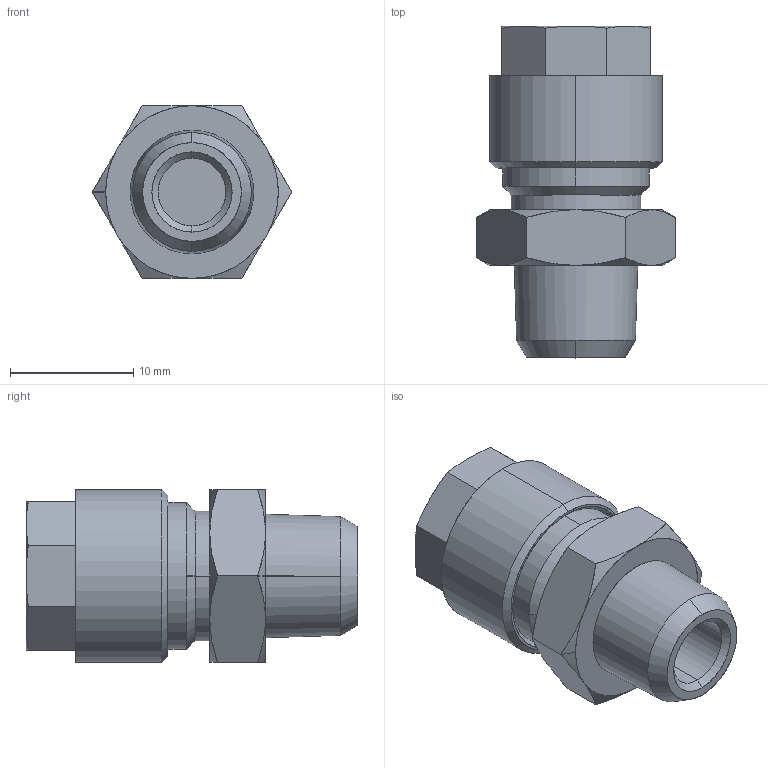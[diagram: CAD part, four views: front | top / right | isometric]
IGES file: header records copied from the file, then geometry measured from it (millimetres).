
Start section: SolidWorks IGES file using analytic representation for surfaces
Global section: file name: K:\Disegni Esecutivi\Serie 1000\Complessivi Serie 1000\1000\1000_iges\0100000006A.IGS; native system: SolidWorks 2009; preprocessor: SolidWorks 2009; author: cad05; date: 090610.152740; units: millimetre
Bounding box: 16.17 x 26.9 x 14 mm (x, y, z)
Surface area: 1610 mm2 (no closed solid volume)
Topology: 0 solids, 0 shells, 72 faces, 933 edges, 933 vertices
Faces by surface type: revolution 47, bspline 25
